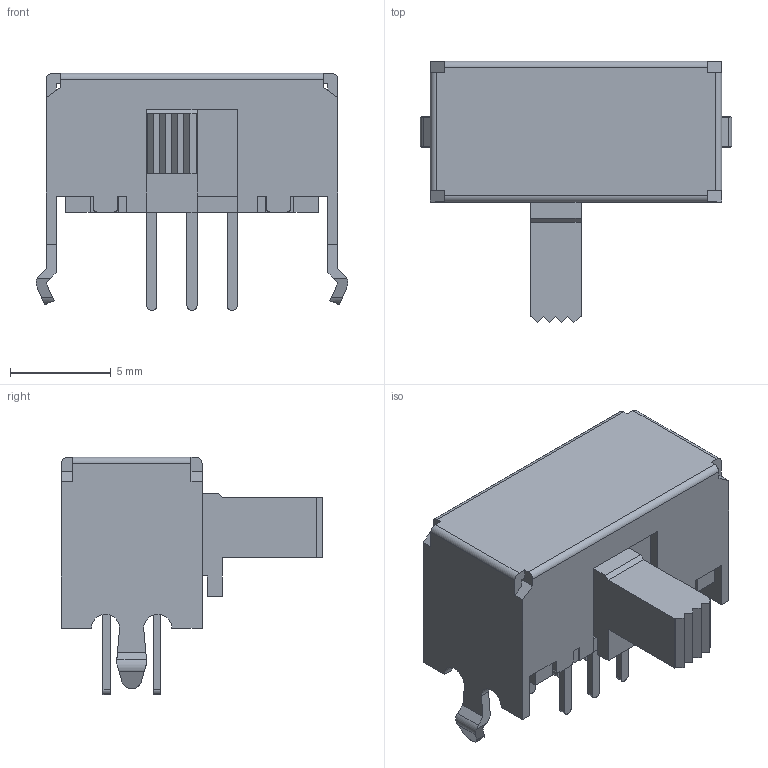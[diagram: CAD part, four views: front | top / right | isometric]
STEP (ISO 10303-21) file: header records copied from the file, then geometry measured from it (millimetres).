
FILE_DESCRIPTION (( 'STEP AP214' ), '1' );
FILE_NAME ('SSSF121900.STEP', '2012-08-06T00:13:10', ( '' ), ( '' ), 'SwSTEP 2.0', 'SolidWorks 2010', '' );
FILE_SCHEMA (( 'AUTOMOTIVE_DESIGN' ));
Length unit declared in the file: millimetre
Products named in the file (1): SSSF121900
Bounding box: 15.5 x 13 x 11.8 mm (x, y, z)
Volume: 754 mm3; surface area: 732.4 mm2
Topology: 1 solids, 1 shells, 166 faces, 482 edges, 320 vertices
Faces by surface type: plane 133, cylinder 33
Entity records: 7228 total; most frequent: CARTESIAN_POINT 1041, ORIENTED_EDGE 964, DIRECTION 842, EDGE_CURVE 482, VECTOR 408, LINE 408, VERTEX_POINT 320, AXIS2_PLACEMENT_3D 217
